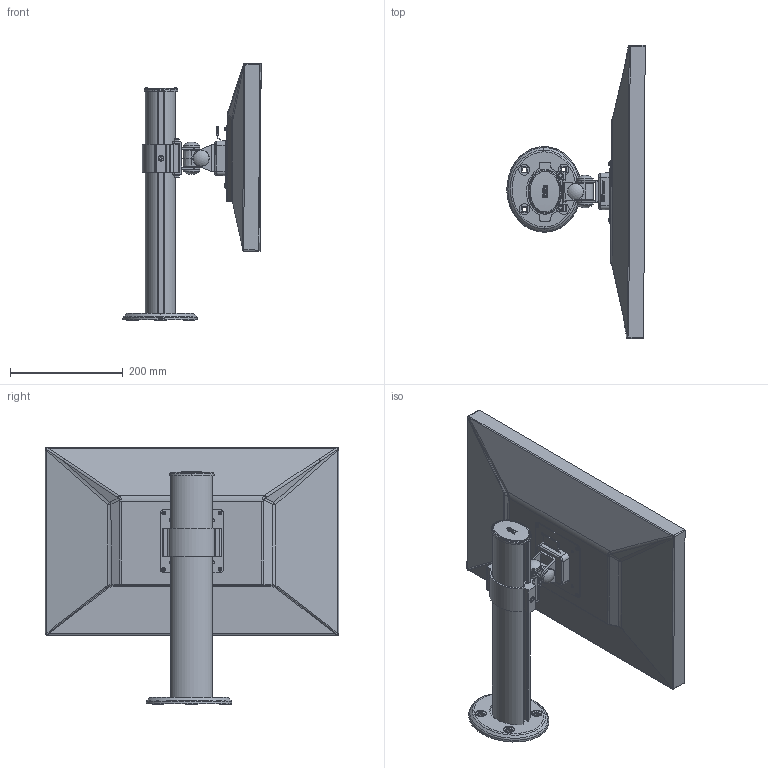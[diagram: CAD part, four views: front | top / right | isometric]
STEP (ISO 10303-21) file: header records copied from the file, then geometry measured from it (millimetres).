
FILE_DESCRIPTION (( 'STEP AP203' ), '1' );
FILE_NAME ('L100.STEP', '2018-05-17T05:53:10', ( '' ), ( '' ), 'SwSTEP 2.0', 'SolidWorks 2014', '' );
FILE_SCHEMA (( 'CONFIG_CONTROL_DESIGN' ));
Length unit declared in the file: millimetre
Products named in the file (1): L100
Bounding box: 245.54 x 521.14 x 456.26 mm (x, y, z)
Surface area: 738031.8 mm2 (no closed solid volume)
Topology: 0 solids, 38 shells, 1179 faces, 2923 edges, 1853 vertices
Faces by surface type: plane 457, cylinder 318, bspline 272, torus 77, cone 33, sphere 22
Full cylindrical faces by diameter (mm): 1.2 x2, 4.915 x2, 4.917 x2, 5 x12, 5.3 x8, 6 x4, 6.5 x4, 6.8 x4, 10 x3, 10.5 x4, 13.1 x1, 15.3 x2, 17.9 x2, 19 x4, 20.65 x4, 24 x1, 29 x4
Entity records: 75808 total; most frequent: CARTESIAN_POINT 51857, ORIENTED_EDGE 5492, DIRECTION 3765, EDGE_CURVE 2748, VERTEX_POINT 1805, AXIS2_PLACEMENT_3D 1398, EDGE_LOOP 1380, FACE_OUTER_BOUND 1280
